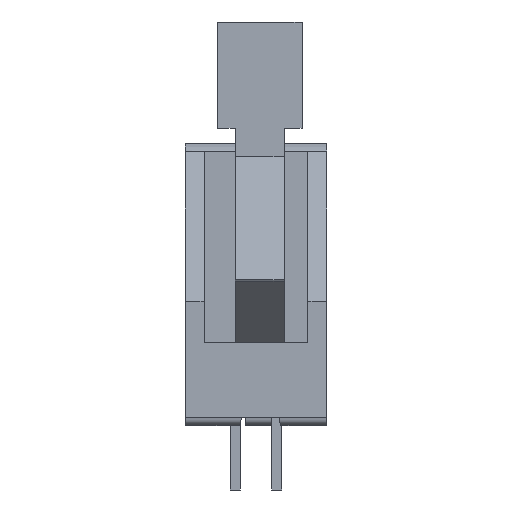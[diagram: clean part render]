
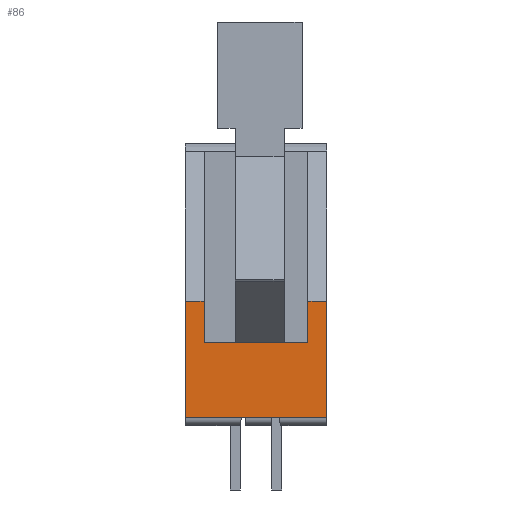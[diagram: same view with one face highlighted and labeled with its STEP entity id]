
A CAD part, left-side view. The second image highlights one B-rep face of the part: STEP entity #86.
In plain terms, the highlighted planar face has unit normal (-1, 0, 0).
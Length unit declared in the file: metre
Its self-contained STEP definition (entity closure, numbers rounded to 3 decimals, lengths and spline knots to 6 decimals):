
#86 = ADVANCED_FACE( '', ( #327 ), #328, .T. );
#327 = FACE_OUTER_BOUND( '', #803, .T. );
#328 = PLANE( '', #804 );
#803 = EDGE_LOOP( '', ( #1386, #1387, #1388, #1389, #1390, #1391, #1392, #1393 ) );
#804 = AXIS2_PLACEMENT_3D( '', #1394, #1395, #1396 );
#1386 = ORIENTED_EDGE( '', *, *, #3229, .T. );
#1387 = ORIENTED_EDGE( '', *, *, #3230, .T. );
#1388 = ORIENTED_EDGE( '', *, *, #3231, .T. );
#1389 = ORIENTED_EDGE( '', *, *, #3232, .T. );
#1390 = ORIENTED_EDGE( '', *, *, #3233, .T. );
#1391 = ORIENTED_EDGE( '', *, *, #3234, .T. );
#1392 = ORIENTED_EDGE( '', *, *, #3235, .F. );
#1393 = ORIENTED_EDGE( '', *, *, #3165, .F. );
#1394 = CARTESIAN_POINT( '', ( -0.018542, 0.004491, 0.007762 ) );
#1395 = DIRECTION( '', ( -1., 0., 0. ) );
#1396 = DIRECTION( '', ( 0., 0., -1. ) );
#3165 = EDGE_CURVE( '', #3785, #3787, #3788, .T. );
#3229 = EDGE_CURVE( '', #3785, #3904, #3906, .T. );
#3230 = EDGE_CURVE( '', #3904, #3907, #3908, .T. );
#3231 = EDGE_CURVE( '', #3907, #3909, #3910, .T. );
#3232 = EDGE_CURVE( '', #3909, #3911, #3912, .T. );
#3233 = EDGE_CURVE( '', #3911, #3913, #3914, .T. );
#3234 = EDGE_CURVE( '', #3913, #3915, #3916, .T. );
#3235 = EDGE_CURVE( '', #3787, #3915, #3917, .T. );
#3785 = VERTEX_POINT( '', #4898 );
#3787 = VERTEX_POINT( '', #4901 );
#3788 = B_SPLINE_CURVE_WITH_KNOTS( '', 1, ( #4902, #4903 ), .UNSPECIFIED., .F., .F., ( 2, 2 ), ( 0., 1. ), .UNSPECIFIED. );
#3904 = VERTEX_POINT( '', #5713 );
#3906 = B_SPLINE_CURVE_WITH_KNOTS( '', 1, ( #5716, #5717 ), .UNSPECIFIED., .F., .F., ( 2, 2 ), ( 0., 1. ), .UNSPECIFIED. );
#3907 = VERTEX_POINT( '', #5718 );
#3908 = B_SPLINE_CURVE_WITH_KNOTS( '', 1, ( #5719, #5720 ), .UNSPECIFIED., .F., .F., ( 2, 2 ), ( 0., 1. ), .UNSPECIFIED. );
#3909 = VERTEX_POINT( '', #5721 );
#3910 = B_SPLINE_CURVE_WITH_KNOTS( '', 1, ( #5722, #5723 ), .UNSPECIFIED., .F., .F., ( 2, 2 ), ( 0., 1. ), .UNSPECIFIED. );
#3911 = VERTEX_POINT( '', #5724 );
#3912 = B_SPLINE_CURVE_WITH_KNOTS( '', 1, ( #5725, #5726 ), .UNSPECIFIED., .F., .F., ( 2, 2 ), ( 0., 1. ), .UNSPECIFIED. );
#3913 = VERTEX_POINT( '', #5727 );
#3914 = B_SPLINE_CURVE_WITH_KNOTS( '', 1, ( #5728, #5729 ), .UNSPECIFIED., .F., .F., ( 2, 2 ), ( 0., 1. ), .UNSPECIFIED. );
#3915 = VERTEX_POINT( '', #5730 );
#3916 = B_SPLINE_CURVE_WITH_KNOTS( '', 1, ( #5731, #5732 ), .UNSPECIFIED., .F., .F., ( 2, 2 ), ( 0., 1. ), .UNSPECIFIED. );
#3917 = B_SPLINE_CURVE_WITH_KNOTS( '', 1, ( #5733, #5734 ), .UNSPECIFIED., .F., .F., ( 2, 2 ), ( 0., 1. ), .UNSPECIFIED. );
#4898 = CARTESIAN_POINT( '', ( -0.018542, -0.004318, 0.00762 ) );
#4901 = CARTESIAN_POINT( '', ( -0.018542, -0.004318, 0.000508 ) );
#4902 = CARTESIAN_POINT( '', ( -0.018542, -0.004318, 0.00762 ) );
#4903 = CARTESIAN_POINT( '', ( -0.018542, -0.004318, 0.000508 ) );
#5713 = CARTESIAN_POINT( '', ( -0.018542, -0.003175, 0.00762 ) );
#5716 = CARTESIAN_POINT( '', ( -0.018542, -0.004318, 0.00762 ) );
#5717 = CARTESIAN_POINT( '', ( -0.018542, -0.003175, 0.00762 ) );
#5718 = CARTESIAN_POINT( '', ( -0.018542, -0.003175, 0.00508 ) );
#5719 = CARTESIAN_POINT( '', ( -0.018542, -0.003175, 0.00762 ) );
#5720 = CARTESIAN_POINT( '', ( -0.018542, -0.003175, 0.00508 ) );
#5721 = CARTESIAN_POINT( '', ( -0.018542, 0.003175, 0.00508 ) );
#5722 = CARTESIAN_POINT( '', ( -0.018542, -0.003175, 0.00508 ) );
#5723 = CARTESIAN_POINT( '', ( -0.018542, 0.003175, 0.00508 ) );
#5724 = CARTESIAN_POINT( '', ( -0.018542, 0.003175, 0.00762 ) );
#5725 = CARTESIAN_POINT( '', ( -0.018542, 0.003175, 0.00508 ) );
#5726 = CARTESIAN_POINT( '', ( -0.018542, 0.003175, 0.00762 ) );
#5727 = CARTESIAN_POINT( '', ( -0.018542, 0.004318, 0.00762 ) );
#5728 = CARTESIAN_POINT( '', ( -0.018542, 0.003175, 0.00762 ) );
#5729 = CARTESIAN_POINT( '', ( -0.018542, 0.004318, 0.00762 ) );
#5730 = CARTESIAN_POINT( '', ( -0.018542, 0.004318, 0.000508 ) );
#5731 = CARTESIAN_POINT( '', ( -0.018542, 0.004318, 0.00762 ) );
#5732 = CARTESIAN_POINT( '', ( -0.018542, 0.004318, 0.000508 ) );
#5733 = CARTESIAN_POINT( '', ( -0.018542, -0.004318, 0.000508 ) );
#5734 = CARTESIAN_POINT( '', ( -0.018542, 0.004318, 0.000508 ) );
